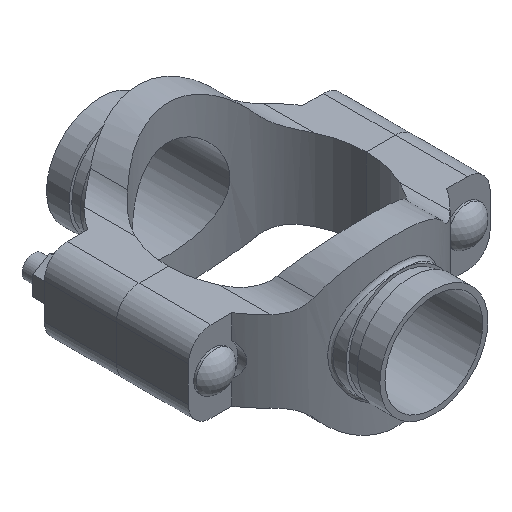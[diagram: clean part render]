
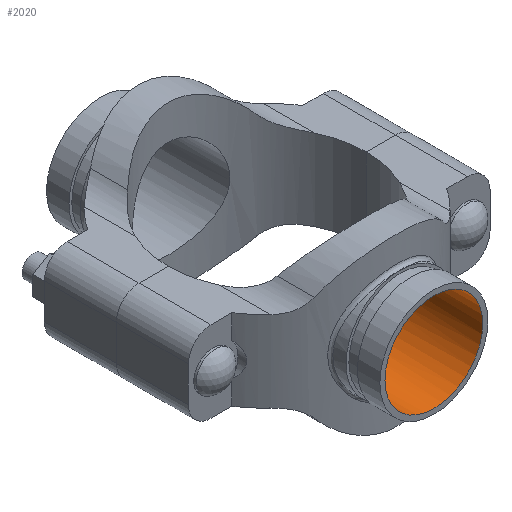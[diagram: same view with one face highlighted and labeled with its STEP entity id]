
A CAD part, isometric view. The second image highlights one B-rep face of the part: STEP entity #2020.
In plain terms, the highlighted cylindrical face has radius 34.493 mm (diameter 68.986 mm), a full revolution.
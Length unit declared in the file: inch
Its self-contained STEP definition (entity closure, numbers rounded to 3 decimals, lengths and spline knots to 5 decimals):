
#52=B_SPLINE_CURVE_WITH_KNOTS('',3,(#4036,#4037,#4038,#4039,#4040,#4041,
#4042,#4043,#4044,#4045,#4046,#4047,#4048,#4049,#4050,#4051,#4052,#4053,
#4054,#4055,#4056,#4057,#4058,#4059,#4060,#4061,#4062,#4063,#4064,#4065,
#4066,#4067,#4068,#4069,#4070,#4071,#4072,#4073,#4074,#4075,#4076,#4077,
#4078,#4079,#4080,#4081,#4082,#4083,#4084,#4085,#4086,#4087,#4088,#4089,
#4090,#4091,#4092,#4093,#4094,#4095,#4096,#4097,#4098,#4099,#4100,#4101),
 .UNSPECIFIED.,.T.,.F.,(4,2,2,2,2,2,2,2,2,2,2,2,2,2,2,2,2,2,2,2,2,2,2,2,
2,2,2,2,2,2,2,2,4),(0.,0.66342,1.32684,1.99027,
2.65369,3.3154,3.97712,4.63883,5.30054,
5.96226,6.62397,7.28568,7.9474,8.61082,
9.27424,9.93766,10.60109,11.26451,11.92793,
12.59135,13.25478,13.91649,14.5782,15.23992,
15.90163,16.56334,17.22506,17.88677,18.54848,
19.21191,19.87533,20.53875,21.20217),
 .UNSPECIFIED.);
#99=CYLINDRICAL_SURFACE('',#2261,1.358);
#218=FACE_OUTER_BOUND('',#342,.T.);
#342=EDGE_LOOP('',(#1624,#1625,#1626,#1627));
#494=LINE('',#4035,#644);
#644=VECTOR('',#2736,1.358);
#748=CIRCLE('',#2262,1.358);
#917=VERTEX_POINT('',#4032);
#918=VERTEX_POINT('',#4034);
#1168=EDGE_CURVE('',#917,#917,#748,.T.);
#1169=EDGE_CURVE('',#917,#918,#494,.T.);
#1170=EDGE_CURVE('',#918,#918,#52,.T.);
#1624=ORIENTED_EDGE('',*,*,#1168,.F.);
#1625=ORIENTED_EDGE('',*,*,#1169,.T.);
#1626=ORIENTED_EDGE('',*,*,#1170,.F.);
#1627=ORIENTED_EDGE('',*,*,#1169,.F.);
#2020=ADVANCED_FACE('',(#218),#99,.F.);
#2261=AXIS2_PLACEMENT_3D('',#4031,#2732,#2733);
#2262=AXIS2_PLACEMENT_3D('',#4033,#2734,#2735);
#2732=DIRECTION('center_axis',(0.,-1.,0.));
#2733=DIRECTION('ref_axis',(-1.,0.,0.));
#2734=DIRECTION('center_axis',(0.,-1.,0.));
#2735=DIRECTION('ref_axis',(-1.,0.,0.));
#2736=DIRECTION('',(0.,-1.,0.));
#4031=CARTESIAN_POINT('Origin',(0.,4.63,0.));
#4032=CARTESIAN_POINT('',(1.358,4.63,0.));
#4033=CARTESIAN_POINT('Origin',(0.,4.63,0.));
#4034=CARTESIAN_POINT('',(1.358,2.3913,0.));
#4035=CARTESIAN_POINT('',(1.358,4.63,0.));
#4036=CARTESIAN_POINT('Ctrl Pts',(1.358,2.3913,0.));
#4037=CARTESIAN_POINT('Ctrl Pts',(1.358,2.3913,-0.08706));
#4038=CARTESIAN_POINT('Ctrl Pts',(1.3495,2.3962,-0.17647));
#4039=CARTESIAN_POINT('Ctrl Pts',(1.31435,2.41565,-0.35321));
#4040=CARTESIAN_POINT('Ctrl Pts',(1.28773,2.43018,-0.44054));
#4041=CARTESIAN_POINT('Ctrl Pts',(1.21803,2.46585,-0.60722));
#4042=CARTESIAN_POINT('Ctrl Pts',(1.17491,2.48698,-0.68673));
#4043=CARTESIAN_POINT('Ctrl Pts',(1.07579,2.53143,-0.83348));
#4044=CARTESIAN_POINT('Ctrl Pts',(1.01978,2.55472,-0.90072));
#4045=CARTESIAN_POINT('Ctrl Pts',(0.90087,2.59903,-1.01963));
#4046=CARTESIAN_POINT('Ctrl Pts',(0.83371,2.62169,-1.07561));
#4047=CARTESIAN_POINT('Ctrl Pts',(0.68693,2.66392,-1.17479));
#4048=CARTESIAN_POINT('Ctrl Pts',(0.60731,2.68345,-1.218));
#4049=CARTESIAN_POINT('Ctrl Pts',(0.44041,2.71584,-1.28778));
#4050=CARTESIAN_POINT('Ctrl Pts',(0.35296,2.7287,-1.31442));
#4051=CARTESIAN_POINT('Ctrl Pts',(0.17618,2.74579,-1.34954));
#4052=CARTESIAN_POINT('Ctrl Pts',(0.08684,2.75,-1.358));
#4053=CARTESIAN_POINT('Ctrl Pts',(-0.08684,2.75,-1.358));
#4054=CARTESIAN_POINT('Ctrl Pts',(-0.17618,2.74579,-1.34954));
#4055=CARTESIAN_POINT('Ctrl Pts',(-0.35296,2.7287,-1.31442));
#4056=CARTESIAN_POINT('Ctrl Pts',(-0.44041,2.71584,-1.28778));
#4057=CARTESIAN_POINT('Ctrl Pts',(-0.60731,2.68345,-1.218));
#4058=CARTESIAN_POINT('Ctrl Pts',(-0.68693,2.66392,-1.17479));
#4059=CARTESIAN_POINT('Ctrl Pts',(-0.83371,2.62169,-1.07561));
#4060=CARTESIAN_POINT('Ctrl Pts',(-0.90087,2.59903,-1.01963));
#4061=CARTESIAN_POINT('Ctrl Pts',(-1.01978,2.55472,-0.90072));
#4062=CARTESIAN_POINT('Ctrl Pts',(-1.07579,2.53143,-0.83348));
#4063=CARTESIAN_POINT('Ctrl Pts',(-1.17491,2.48698,-0.68673));
#4064=CARTESIAN_POINT('Ctrl Pts',(-1.21803,2.46585,-0.60722));
#4065=CARTESIAN_POINT('Ctrl Pts',(-1.28773,2.43018,-0.44054));
#4066=CARTESIAN_POINT('Ctrl Pts',(-1.31435,2.41565,-0.35321));
#4067=CARTESIAN_POINT('Ctrl Pts',(-1.3495,2.3962,-0.17647));
#4068=CARTESIAN_POINT('Ctrl Pts',(-1.358,2.3913,-0.08706));
#4069=CARTESIAN_POINT('Ctrl Pts',(-1.358,2.3913,0.08706));
#4070=CARTESIAN_POINT('Ctrl Pts',(-1.3495,2.3962,0.17647));
#4071=CARTESIAN_POINT('Ctrl Pts',(-1.31435,2.41565,0.35321));
#4072=CARTESIAN_POINT('Ctrl Pts',(-1.28773,2.43018,0.44054));
#4073=CARTESIAN_POINT('Ctrl Pts',(-1.21803,2.46585,0.60722));
#4074=CARTESIAN_POINT('Ctrl Pts',(-1.17491,2.48698,0.68673));
#4075=CARTESIAN_POINT('Ctrl Pts',(-1.07579,2.53143,0.83348));
#4076=CARTESIAN_POINT('Ctrl Pts',(-1.01978,2.55472,0.90072));
#4077=CARTESIAN_POINT('Ctrl Pts',(-0.90087,2.59903,1.01963));
#4078=CARTESIAN_POINT('Ctrl Pts',(-0.83371,2.62169,1.07561));
#4079=CARTESIAN_POINT('Ctrl Pts',(-0.68693,2.66392,1.17479));
#4080=CARTESIAN_POINT('Ctrl Pts',(-0.60731,2.68345,1.218));
#4081=CARTESIAN_POINT('Ctrl Pts',(-0.44041,2.71584,1.28778));
#4082=CARTESIAN_POINT('Ctrl Pts',(-0.35296,2.7287,1.31442));
#4083=CARTESIAN_POINT('Ctrl Pts',(-0.17618,2.74579,1.34954));
#4084=CARTESIAN_POINT('Ctrl Pts',(-0.08684,2.75,1.358));
#4085=CARTESIAN_POINT('Ctrl Pts',(0.08684,2.75,1.358));
#4086=CARTESIAN_POINT('Ctrl Pts',(0.17618,2.74579,1.34954));
#4087=CARTESIAN_POINT('Ctrl Pts',(0.35296,2.7287,1.31442));
#4088=CARTESIAN_POINT('Ctrl Pts',(0.44041,2.71584,1.28778));
#4089=CARTESIAN_POINT('Ctrl Pts',(0.60731,2.68345,1.218));
#4090=CARTESIAN_POINT('Ctrl Pts',(0.68693,2.66392,1.17479));
#4091=CARTESIAN_POINT('Ctrl Pts',(0.83371,2.62169,1.07561));
#4092=CARTESIAN_POINT('Ctrl Pts',(0.90087,2.59903,1.01963));
#4093=CARTESIAN_POINT('Ctrl Pts',(1.01978,2.55472,0.90072));
#4094=CARTESIAN_POINT('Ctrl Pts',(1.07579,2.53143,0.83348));
#4095=CARTESIAN_POINT('Ctrl Pts',(1.17491,2.48698,0.68673));
#4096=CARTESIAN_POINT('Ctrl Pts',(1.21803,2.46585,0.60722));
#4097=CARTESIAN_POINT('Ctrl Pts',(1.28773,2.43018,0.44054));
#4098=CARTESIAN_POINT('Ctrl Pts',(1.31435,2.41565,0.35321));
#4099=CARTESIAN_POINT('Ctrl Pts',(1.3495,2.3962,0.17647));
#4100=CARTESIAN_POINT('Ctrl Pts',(1.358,2.3913,0.08706));
#4101=CARTESIAN_POINT('Ctrl Pts',(1.358,2.3913,0.));
